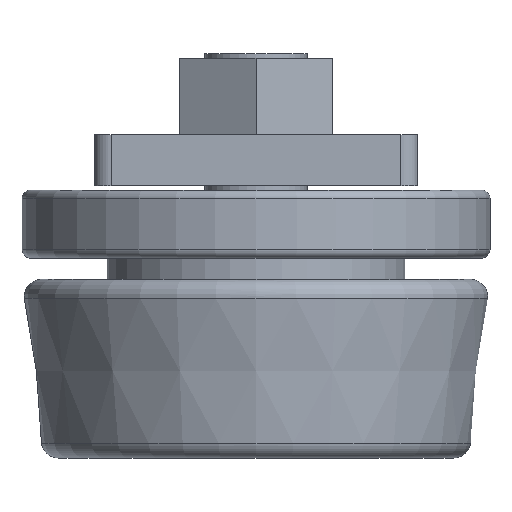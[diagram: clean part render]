
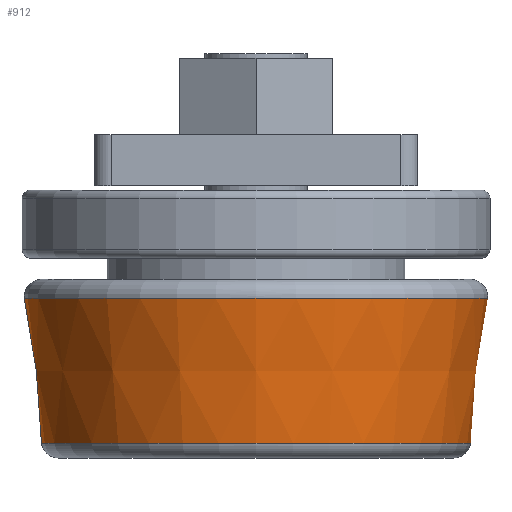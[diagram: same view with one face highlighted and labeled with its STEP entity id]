
A CAD part, front view. The second image highlights one B-rep face of the part: STEP entity #912.
In plain terms, the highlighted conical face has half-angle 6.789 degrees and reference radius 26.25 mm.
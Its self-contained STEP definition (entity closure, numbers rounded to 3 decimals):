
#17=CONICAL_SURFACE('',#1012,26.25,6.789);
#54=FACE_BOUND('',#214,.T.);
#128=FACE_OUTER_BOUND('',#213,.T.);
#213=EDGE_LOOP('',(#765));
#214=EDGE_LOOP('',(#766));
#421=CIRCLE('',#1010,27.234);
#423=CIRCLE('',#1013,25.21);
#483=VERTEX_POINT('',#1474);
#485=VERTEX_POINT('',#1479);
#585=EDGE_CURVE('',#483,#483,#421,.T.);
#587=EDGE_CURVE('',#485,#485,#423,.T.);
#765=ORIENTED_EDGE('',*,*,#587,.F.);
#766=ORIENTED_EDGE('',*,*,#585,.F.);
#912=ADVANCED_FACE('',(#128,#54),#17,.T.);
#1010=AXIS2_PLACEMENT_3D('',#1475,#1213,#1214);
#1012=AXIS2_PLACEMENT_3D('',#1478,#1217,#1218);
#1013=AXIS2_PLACEMENT_3D('',#1480,#1219,#1220);
#1213=DIRECTION('center_axis',(0.,0.,1.));
#1214=DIRECTION('ref_axis',(0.,1.,0.));
#1217=DIRECTION('center_axis',(0.,0.,1.));
#1218=DIRECTION('ref_axis',(0.,-1.,0.));
#1219=DIRECTION('center_axis',(0.,0.,-1.));
#1220=DIRECTION('ref_axis',(0.,1.,0.));
#1474=CARTESIAN_POINT('',(0.,82.266,-13.236));
#1475=CARTESIAN_POINT('Origin',(0.,109.5,-13.236));
#1478=CARTESIAN_POINT('Origin',(0.,109.5,-21.5));
#1479=CARTESIAN_POINT('',(0.,84.29,-30.236));
#1480=CARTESIAN_POINT('Origin',(0.,109.5,-30.236));
